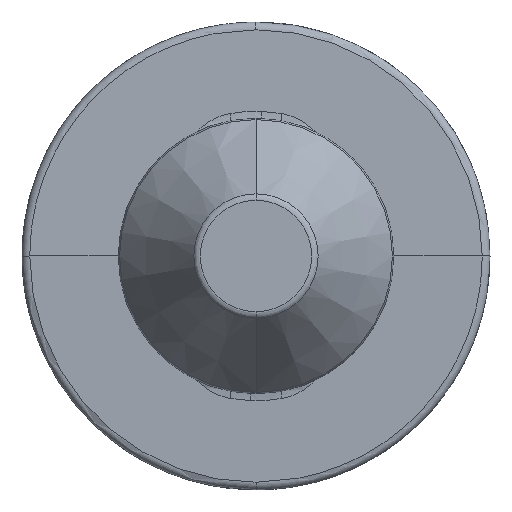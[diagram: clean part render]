
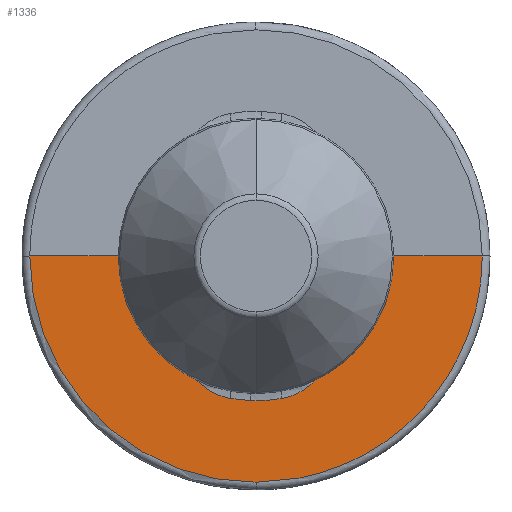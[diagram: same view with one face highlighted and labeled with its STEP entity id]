
A CAD part, front view. The second image highlights one B-rep face of the part: STEP entity #1336.
In plain terms, the highlighted planar face has unit normal (0, -1, -0.018).
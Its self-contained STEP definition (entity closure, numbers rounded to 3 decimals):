
#76=DIRECTION('',(1.,0.,0.));
#77=VECTOR('',#76,2.875);
#78=CARTESIAN_POINT('',(-4.35,0.,
0.));
#79=LINE('',#78,#77);
#104=DIRECTION('',(1.,0.,0.));
#105=VECTOR('',#104,2.875);
#106=CARTESIAN_POINT('',(1.475,0.,
0.));
#107=LINE('',#106,#105);
#161=DIRECTION('',(-0.017,0.017,-1.));
#162=VECTOR('',#161,1.626);
#163=CARTESIAN_POINT('',(1.475,0.,
0.));
#164=LINE('',#163,#162);
#168=CARTESIAN_POINT('',(0.,0.076,
-4.351));
#169=CARTESIAN_POINT('',(0.473,0.076,
-4.346));
#170=CARTESIAN_POINT('',(1.366,0.073,-4.209));
#171=CARTESIAN_POINT('',(2.604,0.062,-3.576));
#172=CARTESIAN_POINT('',(3.576,0.045,-2.604));
#173=CARTESIAN_POINT('',(4.207,0.024,-1.366));
#174=CARTESIAN_POINT('',(4.346,0.008,
-0.473));
#175=CARTESIAN_POINT('',(4.35,0.,0.));
#180=CARTESIAN_POINT('',(0.,0.,
-0.003));
#181=DIRECTION('',(0.,-1.,-0.017));
#182=DIRECTION('',(-1.,0.,0.001));
#183=AXIS2_PLACEMENT_3D('',#180,#181,#182);
#188=DIRECTION('',(-0.017,-0.017,1.));
#189=VECTOR('',#188,1.626);
#190=CARTESIAN_POINT('',(-1.446,0.028,
-1.626));
#191=LINE('',#190,#189);
#195=CARTESIAN_POINT('',(-0.503,0.048,
-2.737));
#196=CARTESIAN_POINT('',(-0.688,0.047,
-2.703));
#197=CARTESIAN_POINT('',(-1.003,0.045,
-2.563));
#198=CARTESIAN_POINT('',(-1.356,0.037,
-2.147));
#199=CARTESIAN_POINT('',(-1.443,0.032,
-1.814));
#200=CARTESIAN_POINT('',(-1.446,0.028,
-1.626));
#205=CARTESIAN_POINT('',(-0.104,0.049,
-2.781));
#206=CARTESIAN_POINT('',(-0.238,0.048,
-2.776));
#207=CARTESIAN_POINT('',(-0.372,0.048,
-2.761));
#208=CARTESIAN_POINT('',(-0.503,0.048,
-2.737));
#213=CARTESIAN_POINT('',(0.503,0.048,
-2.737));
#214=CARTESIAN_POINT('',(0.303,0.048,
-2.774));
#215=CARTESIAN_POINT('',(0.099,0.049,
-2.788));
#216=CARTESIAN_POINT('',(-0.104,0.049,
-2.781));
#221=CARTESIAN_POINT('',(1.446,0.028,-1.626));
#222=CARTESIAN_POINT('',(1.443,0.032,-1.814));
#223=CARTESIAN_POINT('',(1.356,0.037,-2.147));
#224=CARTESIAN_POINT('',(1.003,0.045,-2.563));
#225=CARTESIAN_POINT('',(0.688,0.047,
-2.703));
#226=CARTESIAN_POINT('',(0.503,0.048,
-2.737));
#728=CARTESIAN_POINT('',(-0.104,0.049,
-2.781));
#1155=CARTESIAN_POINT('',(-1.446,0.028,
-1.626));
#1156=CARTESIAN_POINT('',(-1.475,0.,
0.));
#1157=VERTEX_POINT('',#1155);
#1158=VERTEX_POINT('',#1156);
#1167=CARTESIAN_POINT('',(1.475,0.,
0.));
#1168=CARTESIAN_POINT('',(1.446,0.028,
-1.626));
#1169=VERTEX_POINT('',#1167);
#1170=VERTEX_POINT('',#1168);
#1198=VERTEX_POINT('',#728);
#1212=VERTEX_POINT('',#208);
#1252=VERTEX_POINT('',#168);
#1253=VERTEX_POINT('',#175);
#1267=VERTEX_POINT('',#213);
#1270=CARTESIAN_POINT('',(-4.35,0.,
0.));
#1271=VERTEX_POINT('',#1270);
#1311=CARTESIAN_POINT('',(-4.5,0.,0.));
#1312=DIRECTION('',(0.,1.,0.017));
#1313=DIRECTION('',(0.,-0.017,1.));
#1314=AXIS2_PLACEMENT_3D('',#1311,#1312,#1313);
#1315=PLANE('',#1314);
#1317=ORIENTED_EDGE('',*,*,#1316,.F.);
#1318=ORIENTED_EDGE('',*,*,#1287,.T.);
#1320=ORIENTED_EDGE('',*,*,#1319,.F.);
#1322=ORIENTED_EDGE('',*,*,#1321,.F.);
#1323=ORIENTED_EDGE('',*,*,#1281,.T.);
#1325=ORIENTED_EDGE('',*,*,#1324,.F.);
#1327=ORIENTED_EDGE('',*,*,#1326,.F.);
#1329=ORIENTED_EDGE('',*,*,#1328,.F.);
#1331=ORIENTED_EDGE('',*,*,#1330,.F.);
#1333=ORIENTED_EDGE('',*,*,#1332,.F.);
#1334=EDGE_LOOP('',(#1317,#1318,#1320,#1322,#1323,#1325,#1327,#1329,#1331,
#1333));
#1335=FACE_OUTER_BOUND('',#1334,.F.);
#176=B_SPLINE_CURVE_WITH_KNOTS('',3,(#168,#169,#170,#171,#172,#173,#174,#175),
.UNSPECIFIED.,.F.,.F.,(4,1,1,1,1,4),(0.,0.2,0.4,0.6,0.8,1.),
.UNSPECIFIED.);
#184=CIRCLE('',#183,4.35);
#201=B_SPLINE_CURVE_WITH_KNOTS('',3,(#195,#196,#197,#198,#199,#200),
.UNSPECIFIED.,.F.,.F.,(4,1,1,4),(0.,0.333,0.667,1.),
.UNSPECIFIED.);
#209=B_SPLINE_CURVE_WITH_KNOTS('',3,(#205,#206,#207,#208),.UNSPECIFIED.,.F.,.F.,
(4,4),(0.,1.),.UNSPECIFIED.);
#217=B_SPLINE_CURVE_WITH_KNOTS('',3,(#213,#214,#215,#216),.UNSPECIFIED.,.F.,.F.,
(4,4),(0.,1.),.UNSPECIFIED.);
#227=B_SPLINE_CURVE_WITH_KNOTS('',3,(#221,#222,#223,#224,#225,#226),
.UNSPECIFIED.,.F.,.F.,(4,1,1,4),(0.,0.333,0.667,1.),
.UNSPECIFIED.);
#1281=EDGE_CURVE('',#1271,#1158,#79,.T.);
#1287=EDGE_CURVE('',#1169,#1253,#107,.T.);
#1316=EDGE_CURVE('',#1169,#1170,#164,.T.);
#1319=EDGE_CURVE('',#1252,#1253,#176,.T.);
#1321=EDGE_CURVE('',#1271,#1252,#184,.T.);
#1324=EDGE_CURVE('',#1157,#1158,#191,.T.);
#1326=EDGE_CURVE('',#1212,#1157,#201,.T.);
#1328=EDGE_CURVE('',#1198,#1212,#209,.T.);
#1330=EDGE_CURVE('',#1267,#1198,#217,.T.);
#1332=EDGE_CURVE('',#1170,#1267,#227,.T.);
#1336=ADVANCED_FACE('',(#1335),#1315,.F.);
